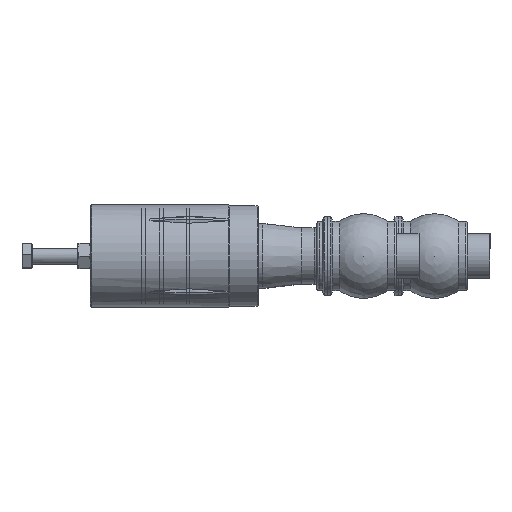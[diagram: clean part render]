
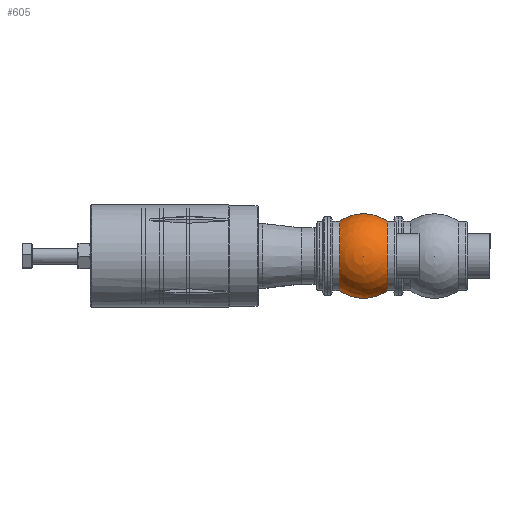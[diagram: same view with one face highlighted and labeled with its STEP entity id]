
A CAD part, left-side view. The second image highlights one B-rep face of the part: STEP entity #605.
In plain terms, the highlighted spherical face has radius 37 mm.
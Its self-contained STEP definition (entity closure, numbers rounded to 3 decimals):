
#465=CARTESIAN_POINT('',(20.0,48.5,31.129));
#466=VERTEX_POINT('',#465);
#467=CARTESIAN_POINT('',(0.0,48.5,31.129));
#468=DIRECTION('',(0.0,0.0,-1.0));
#469=DIRECTION('',(-1.0,0.0,0.0));
#470=AXIS2_PLACEMENT_3D('',#467,#468,#469);
#471=CIRCLE('',#470,20.0);
#472=EDGE_CURVE('',#466,#466,#471,.T.);
#568=CARTESIAN_POINT('',(-30.5,27.554,0.0));
#569=VERTEX_POINT('',#568);
#570=CARTESIAN_POINT('',(0.0,27.554,0.0));
#571=DIRECTION('',(0.0,1.0,0.0));
#572=DIRECTION('',(-1.0,0.0,0.0));
#573=AXIS2_PLACEMENT_3D('',#570,#571,#572);
#574=CIRCLE('',#573,30.5);
#575=EDGE_CURVE('',#569,#569,#574,.T.);
#583=CARTESIAN_POINT('',(0.,48.5,0.0));
#584=DIRECTION('',(0.0,0.0,1.0));
#585=DIRECTION('',(1.0,0.0,0.0));
#586=AXIS2_PLACEMENT_3D('',#583,#584,#585);
#587=SPHERICAL_SURFACE('',#586,37.);
#588=ORIENTED_EDGE('',*,*,#472,.T.);
#589=EDGE_LOOP('',(#588));
#590=FACE_OUTER_BOUND('',#589,.T.);
#591=ORIENTED_EDGE('',*,*,#575,.T.);
#592=EDGE_LOOP('',(#591));
#593=FACE_BOUND('',#592,.T.);
#594=CARTESIAN_POINT('',(-30.5,69.446,0.0));
#595=VERTEX_POINT('',#594);
#596=CARTESIAN_POINT('',(0.0,69.446,0.0));
#597=DIRECTION('',(0.0,1.0,0.0));
#598=DIRECTION('',(-1.0,0.0,0.0));
#599=AXIS2_PLACEMENT_3D('',#596,#597,#598);
#600=CIRCLE('',#599,30.5);
#601=EDGE_CURVE('',#595,#595,#600,.T.);
#602=ORIENTED_EDGE('',*,*,#601,.F.);
#603=EDGE_LOOP('',(#602));
#604=FACE_BOUND('',#603,.T.);
#605=ADVANCED_FACE('',(#590,#593,#604),#587,.T.);
